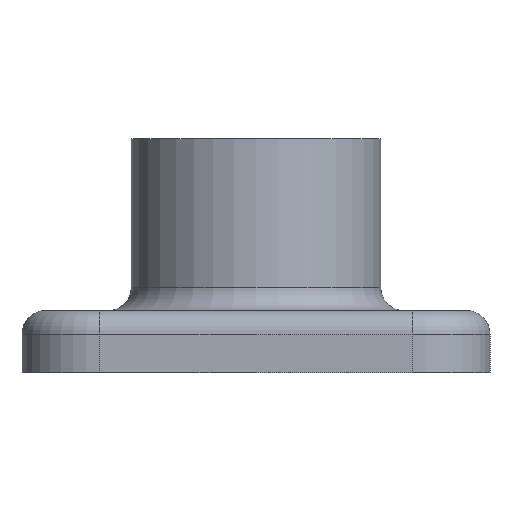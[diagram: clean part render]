
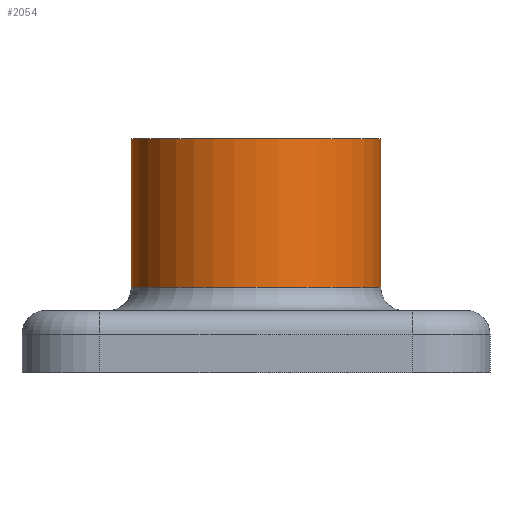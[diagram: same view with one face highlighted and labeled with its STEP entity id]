
A CAD part, left-side view. The second image highlights one B-rep face of the part: STEP entity #2054.
In plain terms, the highlighted cylindrical face has radius 16 mm (diameter 32 mm), a full revolution.
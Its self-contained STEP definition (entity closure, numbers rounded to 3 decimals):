
#1092 = TOROIDAL_SURFACE('',#1093,19.,3.);
#1093 = AXIS2_PLACEMENT_3D('',#1094,#1095,#1096);
#1094 = CARTESIAN_POINT('',(0.,0.,7.));
#1095 = DIRECTION('',(-0.,-0.,-1.));
#1096 = DIRECTION('',(1.,0.,-0.));
#1497 = PLANE('',#1498);
#1498 = AXIS2_PLACEMENT_3D('',#1499,#1500,#1501);
#1499 = CARTESIAN_POINT('',(0.,0.,26.));
#1500 = DIRECTION('',(0.,0.,1.));
#1501 = DIRECTION('',(1.,0.,0.));
#1897 = VERTEX_POINT('',#1898);
#1898 = CARTESIAN_POINT('',(16.,0.,7.));
#1920 = EDGE_CURVE('',#1897,#1897,#1921,.T.);
#1921 = SURFACE_CURVE('',#1922,(#1927,#1934),.PCURVE_S1.);
#1922 = CIRCLE('',#1923,16.);
#1923 = AXIS2_PLACEMENT_3D('',#1924,#1925,#1926);
#1924 = CARTESIAN_POINT('',(0.,0.,7.));
#1925 = DIRECTION('',(0.,0.,1.));
#1926 = DIRECTION('',(1.,0.,-0.));
#1927 = PCURVE('',#1092,#1928);
#1928 = DEFINITIONAL_REPRESENTATION('',(#1929),#1933);
#1929 = LINE('',#1930,#1931);
#1930 = CARTESIAN_POINT('',(-0.,3.142));
#1931 = VECTOR('',#1932,1.);
#1932 = DIRECTION('',(-1.,0.));
#1933 = ( GEOMETRIC_REPRESENTATION_CONTEXT(2) 
PARAMETRIC_REPRESENTATION_CONTEXT() REPRESENTATION_CONTEXT('2D SPACE',''
  ) );
#1934 = PCURVE('',#1935,#1940);
#1935 = CYLINDRICAL_SURFACE('',#1936,16.);
#1936 = AXIS2_PLACEMENT_3D('',#1937,#1938,#1939);
#1937 = CARTESIAN_POINT('',(0.,0.,4.));
#1938 = DIRECTION('',(0.,0.,1.));
#1939 = DIRECTION('',(1.,0.,0.));
#1940 = DEFINITIONAL_REPRESENTATION('',(#1941),#1945);
#1941 = LINE('',#1942,#1943);
#1942 = CARTESIAN_POINT('',(0.,3.));
#1943 = VECTOR('',#1944,1.);
#1944 = DIRECTION('',(1.,0.));
#1945 = ( GEOMETRIC_REPRESENTATION_CONTEXT(2) 
PARAMETRIC_REPRESENTATION_CONTEXT() REPRESENTATION_CONTEXT('2D SPACE',''
  ) );
#2014 = EDGE_CURVE('',#2015,#2015,#2017,.T.);
#2015 = VERTEX_POINT('',#2016);
#2016 = CARTESIAN_POINT('',(16.,0.,26.));
#2017 = SURFACE_CURVE('',#2018,(#2023,#2030),.PCURVE_S1.);
#2018 = CIRCLE('',#2019,16.);
#2019 = AXIS2_PLACEMENT_3D('',#2020,#2021,#2022);
#2020 = CARTESIAN_POINT('',(0.,0.,26.));
#2021 = DIRECTION('',(0.,0.,1.));
#2022 = DIRECTION('',(1.,0.,0.));
#2023 = PCURVE('',#1497,#2024);
#2024 = DEFINITIONAL_REPRESENTATION('',(#2025),#2029);
#2025 = CIRCLE('',#2026,16.);
#2026 = AXIS2_PLACEMENT_2D('',#2027,#2028);
#2027 = CARTESIAN_POINT('',(0.,0.));
#2028 = DIRECTION('',(1.,0.));
#2029 = ( GEOMETRIC_REPRESENTATION_CONTEXT(2) 
PARAMETRIC_REPRESENTATION_CONTEXT() REPRESENTATION_CONTEXT('2D SPACE',''
  ) );
#2030 = PCURVE('',#1935,#2031);
#2031 = DEFINITIONAL_REPRESENTATION('',(#2032),#2036);
#2032 = LINE('',#2033,#2034);
#2033 = CARTESIAN_POINT('',(0.,22.));
#2034 = VECTOR('',#2035,1.);
#2035 = DIRECTION('',(1.,0.));
#2036 = ( GEOMETRIC_REPRESENTATION_CONTEXT(2) 
PARAMETRIC_REPRESENTATION_CONTEXT() REPRESENTATION_CONTEXT('2D SPACE',''
  ) );
#2054 = ADVANCED_FACE('',(#2055),#1935,.T.);
#2055 = FACE_BOUND('',#2056,.T.);
#2056 = EDGE_LOOP('',(#2057,#2078,#2079,#2080));
#2057 = ORIENTED_EDGE('',*,*,#2058,.T.);
#2058 = EDGE_CURVE('',#1897,#2015,#2059,.T.);
#2059 = SEAM_CURVE('',#2060,(#2064,#2071),.PCURVE_S1.);
#2060 = LINE('',#2061,#2062);
#2061 = CARTESIAN_POINT('',(16.,0.,4.));
#2062 = VECTOR('',#2063,1.);
#2063 = DIRECTION('',(0.,0.,1.));
#2064 = PCURVE('',#1935,#2065);
#2065 = DEFINITIONAL_REPRESENTATION('',(#2066),#2070);
#2066 = LINE('',#2067,#2068);
#2067 = CARTESIAN_POINT('',(6.283,-0.));
#2068 = VECTOR('',#2069,1.);
#2069 = DIRECTION('',(0.,1.));
#2070 = ( GEOMETRIC_REPRESENTATION_CONTEXT(2) 
PARAMETRIC_REPRESENTATION_CONTEXT() REPRESENTATION_CONTEXT('2D SPACE',''
  ) );
#2071 = PCURVE('',#1935,#2072);
#2072 = DEFINITIONAL_REPRESENTATION('',(#2073),#2077);
#2073 = LINE('',#2074,#2075);
#2074 = CARTESIAN_POINT('',(0.,-0.));
#2075 = VECTOR('',#2076,1.);
#2076 = DIRECTION('',(0.,1.));
#2077 = ( GEOMETRIC_REPRESENTATION_CONTEXT(2) 
PARAMETRIC_REPRESENTATION_CONTEXT() REPRESENTATION_CONTEXT('2D SPACE',''
  ) );
#2078 = ORIENTED_EDGE('',*,*,#2014,.F.);
#2079 = ORIENTED_EDGE('',*,*,#2058,.F.);
#2080 = ORIENTED_EDGE('',*,*,#1920,.T.);
